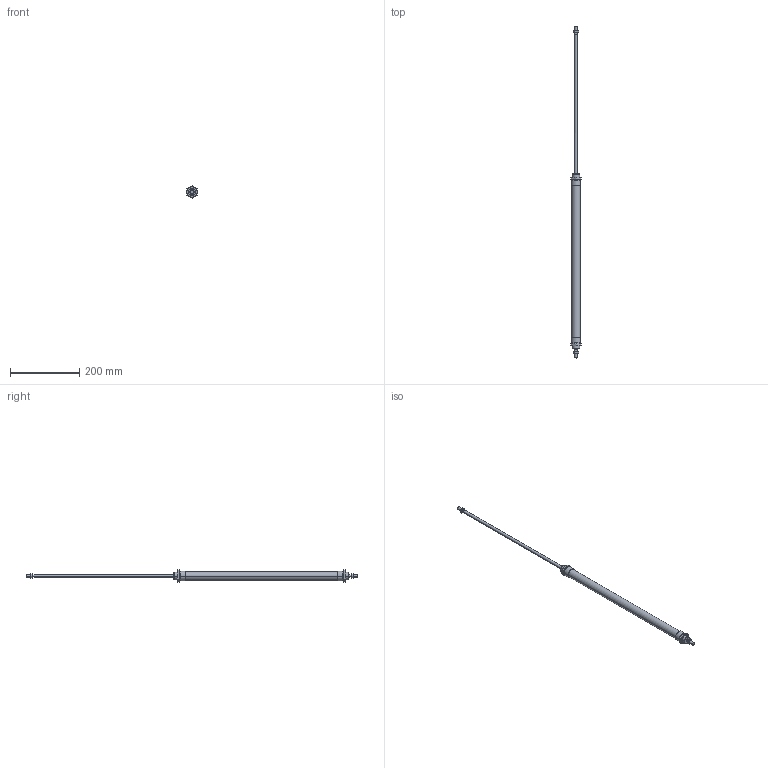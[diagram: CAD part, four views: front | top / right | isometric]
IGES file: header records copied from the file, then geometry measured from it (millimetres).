
Global section: file name: No Iges File Name specified; native system: AutoDesk Inventor R6.0; preprocessor: AutoDesk Inventor Iges Exporter R6.0; author: No Author specified; organization: No Organization specified; date: 20030403.072413; units: millimetre
Bounding box: 30 x 956 x 34.64 mm (x, y, z)
Volume: 258481.4 mm3; surface area: 81502.7 mm2
Topology: 6 solids, 6 shells, 186 faces, 414 edges, 244 vertices
Faces by surface type: cone 68, plane 60, bspline 32, cylinder 20, revolution 6
